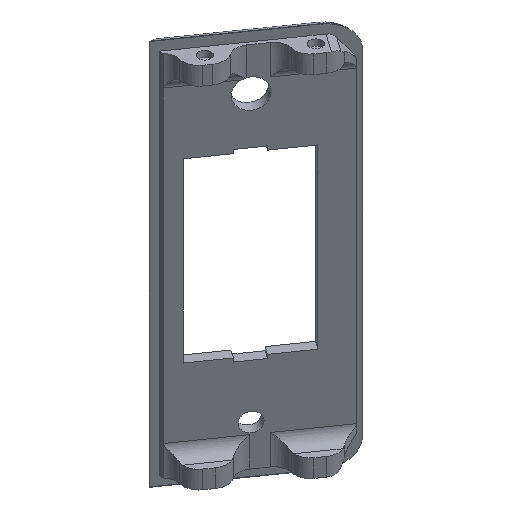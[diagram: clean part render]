
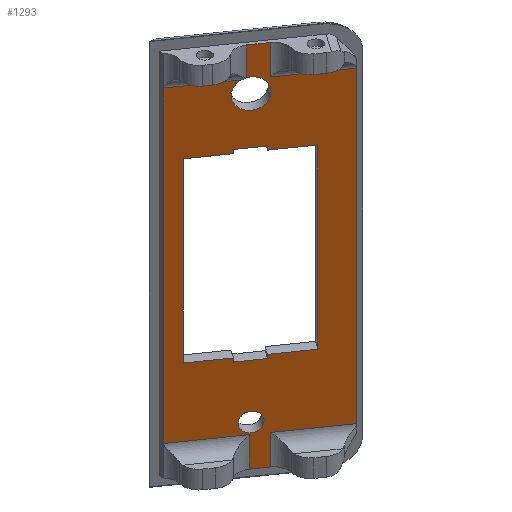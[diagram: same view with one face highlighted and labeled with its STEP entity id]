
A CAD part, isometric view. The second image highlights one B-rep face of the part: STEP entity #1293.
In plain terms, the highlighted planar face has unit normal (-0.572, -0.82, 0) as drawn and (0, -0.82, -0.572) by its records, which use the part's own axes.
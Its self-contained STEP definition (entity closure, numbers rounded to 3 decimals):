
#23=FACE_BOUND('',#237,.T.);
#24=FACE_BOUND('',#238,.T.);
#46=CIRCLE('',#1362,6.021);
#47=CIRCLE('',#1363,6.021);
#60=CIRCLE('',#1403,3.887);
#162=FACE_OUTER_BOUND('',#236,.T.);
#236=EDGE_LOOP('',(#1014,#1015,#1016,#1017,#1018,#1019,#1020,#1021,#1022,
#1023,#1024,#1025,#1026,#1027));
#237=EDGE_LOOP('',(#1028));
#238=EDGE_LOOP('',(#1029,#1030,#1031,#1032,#1033,#1034,#1035,#1036,#1037,
#1038,#1039,#1040));
#300=LINE('',#1891,#417);
#309=LINE('',#1932,#426);
#312=LINE('',#1938,#429);
#315=LINE('',#1944,#432);
#318=LINE('',#1950,#435);
#321=LINE('',#1956,#438);
#324=LINE('',#1962,#441);
#332=LINE('',#2001,#449);
#335=LINE('',#2007,#452);
#338=LINE('',#2013,#455);
#341=LINE('',#2019,#458);
#344=LINE('',#2025,#461);
#346=LINE('',#2028,#463);
#348=LINE('',#2057,#465);
#350=LINE('',#2115,#467);
#353=LINE('',#2127,#470);
#368=LINE('',#2172,#485);
#370=LINE('',#2176,#487);
#371=LINE('',#2178,#488);
#372=LINE('',#2179,#489);
#373=LINE('',#2181,#490);
#374=LINE('',#2182,#491);
#375=LINE('',#2184,#492);
#376=LINE('',#2185,#493);
#417=VECTOR('',#1496,10.);
#426=VECTOR('',#1525,10.);
#429=VECTOR('',#1530,10.);
#432=VECTOR('',#1535,10.);
#435=VECTOR('',#1540,10.);
#438=VECTOR('',#1545,10.);
#441=VECTOR('',#1550,10.);
#449=VECTOR('',#1574,10.);
#452=VECTOR('',#1579,10.);
#455=VECTOR('',#1584,10.);
#458=VECTOR('',#1589,10.);
#461=VECTOR('',#1594,10.);
#463=VECTOR('',#1598,10.);
#465=VECTOR('',#1610,10.);
#467=VECTOR('',#1614,10.);
#470=VECTOR('',#1627,10.);
#485=VECTOR('',#1678,9.5);
#487=VECTOR('',#1682,10.);
#488=VECTOR('',#1683,10.);
#489=VECTOR('',#1684,10.);
#490=VECTOR('',#1685,10.);
#491=VECTOR('',#1686,10.);
#492=VECTOR('',#1687,10.);
#493=VECTOR('',#1688,10.);
#543=VERTEX_POINT('',#1888);
#544=VERTEX_POINT('',#1890);
#558=VERTEX_POINT('',#1926);
#560=VERTEX_POINT('',#1930);
#562=VERTEX_POINT('',#1935);
#564=VERTEX_POINT('',#1941);
#565=VERTEX_POINT('',#1946);
#568=VERTEX_POINT('',#1953);
#570=VERTEX_POINT('',#1959);
#572=VERTEX_POINT('',#1966);
#573=VERTEX_POINT('',#1968);
#575=VERTEX_POINT('',#1975);
#583=VERTEX_POINT('',#1998);
#585=VERTEX_POINT('',#2004);
#587=VERTEX_POINT('',#2011);
#589=VERTEX_POINT('',#2017);
#591=VERTEX_POINT('',#2023);
#596=VERTEX_POINT('',#2045);
#597=VERTEX_POINT('',#2056);
#602=VERTEX_POINT('',#2100);
#606=VERTEX_POINT('',#2125);
#618=VERTEX_POINT('',#2171);
#619=VERTEX_POINT('',#2175);
#620=VERTEX_POINT('',#2177);
#621=VERTEX_POINT('',#2180);
#622=VERTEX_POINT('',#2183);
#623=VERTEX_POINT('',#2186);
#670=EDGE_CURVE('',#544,#543,#300,.T.);
#688=EDGE_CURVE('',#558,#560,#309,.T.);
#691=EDGE_CURVE('',#562,#558,#312,.T.);
#694=EDGE_CURVE('',#564,#562,#315,.T.);
#697=EDGE_CURVE('',#565,#564,#318,.T.);
#700=EDGE_CURVE('',#568,#565,#321,.T.);
#703=EDGE_CURVE('',#570,#568,#324,.T.);
#706=EDGE_CURVE('',#573,#572,#46,.T.);
#709=EDGE_CURVE('',#572,#575,#47,.T.);
#718=EDGE_CURVE('',#583,#570,#332,.T.);
#721=EDGE_CURVE('',#585,#583,#335,.T.);
#724=EDGE_CURVE('',#560,#587,#338,.T.);
#727=EDGE_CURVE('',#587,#589,#341,.T.);
#730=EDGE_CURVE('',#589,#591,#344,.T.);
#732=EDGE_CURVE('',#591,#585,#346,.T.);
#738=EDGE_CURVE('',#596,#597,#348,.T.);
#745=EDGE_CURVE('',#602,#575,#350,.T.);
#751=EDGE_CURVE('',#596,#606,#353,.T.);
#773=EDGE_CURVE('',#597,#618,#368,.T.);
#775=EDGE_CURVE('',#619,#602,#370,.T.);
#776=EDGE_CURVE('',#620,#619,#371,.T.);
#777=EDGE_CURVE('',#544,#620,#372,.T.);
#778=EDGE_CURVE('',#543,#621,#373,.T.);
#779=EDGE_CURVE('',#618,#621,#374,.T.);
#780=EDGE_CURVE('',#606,#622,#375,.T.);
#781=EDGE_CURVE('',#622,#573,#376,.T.);
#782=EDGE_CURVE('',#623,#623,#60,.T.);
#1014=ORIENTED_EDGE('',*,*,#706,.T.);
#1015=ORIENTED_EDGE('',*,*,#709,.T.);
#1016=ORIENTED_EDGE('',*,*,#745,.F.);
#1017=ORIENTED_EDGE('',*,*,#775,.F.);
#1018=ORIENTED_EDGE('',*,*,#776,.F.);
#1019=ORIENTED_EDGE('',*,*,#777,.F.);
#1020=ORIENTED_EDGE('',*,*,#670,.T.);
#1021=ORIENTED_EDGE('',*,*,#778,.T.);
#1022=ORIENTED_EDGE('',*,*,#779,.F.);
#1023=ORIENTED_EDGE('',*,*,#773,.F.);
#1024=ORIENTED_EDGE('',*,*,#738,.F.);
#1025=ORIENTED_EDGE('',*,*,#751,.T.);
#1026=ORIENTED_EDGE('',*,*,#780,.T.);
#1027=ORIENTED_EDGE('',*,*,#781,.T.);
#1028=ORIENTED_EDGE('',*,*,#782,.T.);
#1029=ORIENTED_EDGE('',*,*,#718,.T.);
#1030=ORIENTED_EDGE('',*,*,#703,.T.);
#1031=ORIENTED_EDGE('',*,*,#700,.T.);
#1032=ORIENTED_EDGE('',*,*,#697,.T.);
#1033=ORIENTED_EDGE('',*,*,#694,.T.);
#1034=ORIENTED_EDGE('',*,*,#691,.T.);
#1035=ORIENTED_EDGE('',*,*,#688,.T.);
#1036=ORIENTED_EDGE('',*,*,#724,.T.);
#1037=ORIENTED_EDGE('',*,*,#727,.T.);
#1038=ORIENTED_EDGE('',*,*,#730,.T.);
#1039=ORIENTED_EDGE('',*,*,#732,.T.);
#1040=ORIENTED_EDGE('',*,*,#721,.T.);
#1241=PLANE('',#1402);
#1293=ADVANCED_FACE('',(#162,#23,#24),#1241,.T.);
#1362=AXIS2_PLACEMENT_3D('',#1969,#1556,#1557);
#1363=AXIS2_PLACEMENT_3D('',#1982,#1558,#1559);
#1402=AXIS2_PLACEMENT_3D('',#2174,#1680,#1681);
#1403=AXIS2_PLACEMENT_3D('',#2187,#1689,#1690);
#1496=DIRECTION('',(0.,-0.572,0.82));
#1525=DIRECTION('',(1.,0.,0.));
#1530=DIRECTION('',(0.,0.572,-0.82));
#1535=DIRECTION('',(1.,0.,0.));
#1540=DIRECTION('',(0.,-0.572,0.82));
#1545=DIRECTION('',(1.,0.,0.));
#1550=DIRECTION('',(0.,-0.572,0.82));
#1556=DIRECTION('center_axis',(0.,0.82,0.572));
#1557=DIRECTION('ref_axis',(1.,0.,0.));
#1558=DIRECTION('center_axis',(0.,0.82,0.572));
#1559=DIRECTION('ref_axis',(1.,0.,0.));
#1574=DIRECTION('',(-1.,0.,0.));
#1579=DIRECTION('',(0.,-0.572,0.82));
#1584=DIRECTION('',(0.,0.572,-0.82));
#1589=DIRECTION('',(-1.,0.,0.));
#1594=DIRECTION('',(0.,0.572,-0.82));
#1598=DIRECTION('',(-1.,0.,0.));
#1610=DIRECTION('',(0.,-0.572,0.82));
#1614=DIRECTION('',(0.,-0.572,0.82));
#1627=DIRECTION('',(-1.,0.,0.));
#1678=DIRECTION('',(1.,0.,0.));
#1680=DIRECTION('center_axis',(0.,-0.82,-0.572));
#1681=DIRECTION('ref_axis',(-1.,0.,0.));
#1682=DIRECTION('',(-1.,0.,0.));
#1683=DIRECTION('',(0.,0.572,-0.82));
#1684=DIRECTION('',(-1.,0.,0.));
#1685=DIRECTION('',(-1.,0.,0.));
#1686=DIRECTION('',(0.,0.572,-0.82));
#1687=DIRECTION('',(0.,0.572,-0.82));
#1688=DIRECTION('',(1.,0.,0.));
#1689=DIRECTION('center_axis',(0.,0.82,0.572));
#1690=DIRECTION('ref_axis',(1.,0.,0.));
#1888=CARTESIAN_POINT('',(166.,27.67,-34.253));
#1890=CARTESIAN_POINT('',(166.,31.267,-39.407));
#1891=CARTESIAN_POINT('',(166.,29.814,-37.325));
#1926=CARTESIAN_POINT('',(125.1,28.146,-34.935));
#1930=CARTESIAN_POINT('',(126.6,28.146,-34.935));
#1932=CARTESIAN_POINT('',(68.9,28.146,-34.935));
#1935=CARTESIAN_POINT('',(125.1,19.503,-22.551));
#1938=CARTESIAN_POINT('',(125.1,27.688,-34.279));
#1941=CARTESIAN_POINT('',(51.1,19.503,-22.551));
#1944=CARTESIAN_POINT('',(68.15,19.503,-22.551));
#1946=CARTESIAN_POINT('',(51.1,28.146,-34.935));
#1950=CARTESIAN_POINT('',(51.1,16.242,-17.878));
#1953=CARTESIAN_POINT('',(49.6,28.146,-34.935));
#1956=CARTESIAN_POINT('',(32.15,28.146,-34.935));
#1959=CARTESIAN_POINT('',(49.6,34.039,-43.378));
#1962=CARTESIAN_POINT('',(49.6,20.492,-23.968));
#1966=CARTESIAN_POINT('',(23.979,30.983,-39.));
#1968=CARTESIAN_POINT('',(24.129,31.747,-40.095));
#1969=CARTESIAN_POINT('Origin',(30.,30.983,-39.));
#1975=CARTESIAN_POINT('',(24.7,32.618,-41.343));
#1982=CARTESIAN_POINT('Origin',(30.,30.983,-39.));
#1998=CARTESIAN_POINT('',(51.1,34.039,-43.378));
#2001=CARTESIAN_POINT('',(31.4,34.039,-43.378));
#2004=CARTESIAN_POINT('',(51.1,42.682,-55.762));
#2007=CARTESIAN_POINT('',(51.1,16.242,-17.878));
#2011=CARTESIAN_POINT('',(126.6,34.039,-43.378));
#2013=CARTESIAN_POINT('',(126.6,23.438,-28.189));
#2017=CARTESIAN_POINT('',(125.1,34.039,-43.378));
#2019=CARTESIAN_POINT('',(68.15,34.039,-43.378));
#2023=CARTESIAN_POINT('',(125.1,42.682,-55.762));
#2025=CARTESIAN_POINT('',(125.1,27.688,-34.279));
#2028=CARTESIAN_POINT('',(32.15,42.682,-55.762));
#2045=CARTESIAN_POINT('',(24.7,27.67,-34.253));
#2056=CARTESIAN_POINT('',(24.7,12.838,-13.));
#2057=CARTESIAN_POINT('',(24.7,17.346,-19.46));
#2100=CARTESIAN_POINT('',(24.7,46.088,-60.643));
#2115=CARTESIAN_POINT('',(24.7,26.917,-33.174));
#2125=CARTESIAN_POINT('',(12.2,27.67,-34.253));
#2127=CARTESIAN_POINT('',(13.325,27.67,-34.253));
#2171=CARTESIAN_POINT('',(153.5,12.838,-13.));
#2172=CARTESIAN_POINT('',(11.2,12.838,-13.));
#2174=CARTESIAN_POINT('Origin',(12.2,12.838,-13.));
#2175=CARTESIAN_POINT('',(153.5,46.088,-60.643));
#2176=CARTESIAN_POINT('',(10.2,46.088,-60.643));
#2177=CARTESIAN_POINT('',(153.5,31.267,-39.407));
#2178=CARTESIAN_POINT('',(153.5,25.2,-30.714));
#2179=CARTESIAN_POINT('',(88.1,31.267,-39.407));
#2180=CARTESIAN_POINT('',(153.5,27.67,-34.253));
#2181=CARTESIAN_POINT('',(162.625,27.67,-34.253));
#2182=CARTESIAN_POINT('',(153.5,15.629,-17.));
#2183=CARTESIAN_POINT('',(12.2,31.747,-40.095));
#2184=CARTESIAN_POINT('',(12.2,29.814,-37.325));
#2185=CARTESIAN_POINT('',(15.575,31.747,-40.095));
#2186=CARTESIAN_POINT('',(145.113,30.983,-39.));
#2187=CARTESIAN_POINT('Origin',(149.,30.983,-39.));
